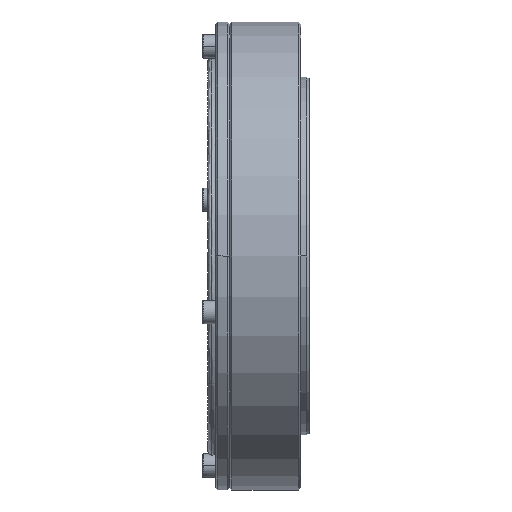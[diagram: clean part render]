
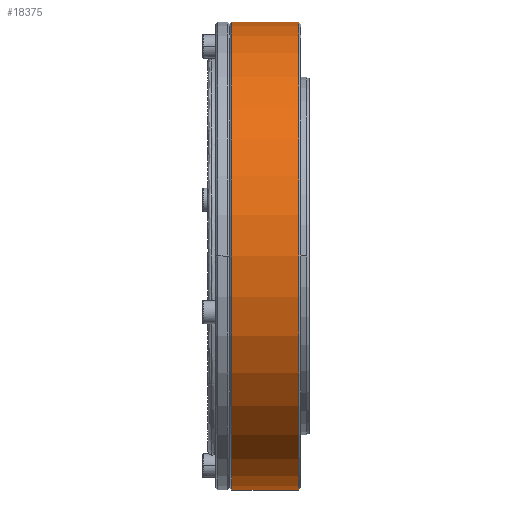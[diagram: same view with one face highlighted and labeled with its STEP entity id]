
A CAD part, front view. The second image highlights one B-rep face of the part: STEP entity #18375.
In plain terms, the highlighted cylindrical face has radius 55 mm (diameter 110 mm), a partial arc.
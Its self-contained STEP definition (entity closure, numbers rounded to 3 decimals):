
#194 = EDGE_CURVE ( 'NONE', #670, #18449, #13107, .T. ) ;
#226 = DIRECTION ( 'NONE',  ( -1., 0., 0. ) ) ;
#276 = LINE ( 'NONE', #15517, #6031 ) ;
#385 = CARTESIAN_POINT ( 'NONE',  ( 16.2, 0., 55. ) ) ;
#670 = VERTEX_POINT ( 'NONE', #2377 ) ;
#889 = DIRECTION ( 'NONE',  ( -1., 0., 0. ) ) ;
#1881 = ORIENTED_EDGE ( 'NONE', *, *, #11133, .F. ) ;
#1930 = DIRECTION ( 'NONE',  ( 0., 0., 1. ) ) ;
#1941 = AXIS2_PLACEMENT_3D ( 'NONE', #12729, #9297, #1930 ) ;
#2377 = CARTESIAN_POINT ( 'NONE',  ( 0.5, 0., 55. ) ) ;
#2899 = VECTOR ( 'NONE', #4291, 1000. ) ;
#4291 = DIRECTION ( 'NONE',  ( -1., 0., 0. ) ) ;
#5176 = ORIENTED_EDGE ( 'NONE', *, *, #194, .T. ) ;
#5595 = CARTESIAN_POINT ( 'NONE',  ( 16.2, 0., -55. ) ) ;
#6031 = VECTOR ( 'NONE', #889, 1000. ) ;
#6224 = DIRECTION ( 'NONE',  ( 1., 0., 0. ) ) ;
#7388 = VERTEX_POINT ( 'NONE', #385 ) ;
#7635 = FACE_OUTER_BOUND ( 'NONE', #18989, .T. ) ;
#7727 = ORIENTED_EDGE ( 'NONE', *, *, #21606, .T. ) ;
#9297 = DIRECTION ( 'NONE',  ( -1., 0., 0. ) ) ;
#9458 = CARTESIAN_POINT ( 'NONE',  ( 0.5, 0., -55. ) ) ;
#11133 = EDGE_CURVE ( 'NONE', #20012, #18449, #276, .T. ) ;
#12729 = CARTESIAN_POINT ( 'NONE',  ( 16.2, 0., 0. ) ) ;
#13107 = CIRCLE ( 'NONE', #13829, 55. ) ;
#13297 = ORIENTED_EDGE ( 'NONE', *, *, #20657, .T. ) ;
#13829 = AXIS2_PLACEMENT_3D ( 'NONE', #20973, #6224, #19194 ) ;
#15517 = CARTESIAN_POINT ( 'NONE',  ( 0., 0., -55. ) ) ;
#18092 = LINE ( 'NONE', #22882, #2899 ) ;
#18375 = ADVANCED_FACE ( 'NONE', ( #7635 ), #20503, .T. ) ;
#18449 = VERTEX_POINT ( 'NONE', #9458 ) ;
#18981 = AXIS2_PLACEMENT_3D ( 'NONE', #22821, #226, #22654 ) ;
#18989 = EDGE_LOOP ( 'NONE', ( #1881, #13297, #7727, #5176 ) ) ;
#19194 = DIRECTION ( 'NONE',  ( 0., 0., 1. ) ) ;
#20012 = VERTEX_POINT ( 'NONE', #5595 ) ;
#20503 = CYLINDRICAL_SURFACE ( 'NONE', #18981, 55. ) ;
#20657 = EDGE_CURVE ( 'NONE', #20012, #7388, #20727, .T. ) ;
#20727 = CIRCLE ( 'NONE', #1941, 55. ) ;
#20973 = CARTESIAN_POINT ( 'NONE',  ( 0.5, 0., 0. ) ) ;
#21606 = EDGE_CURVE ( 'NONE', #7388, #670, #18092, .T. ) ;
#22654 = DIRECTION ( 'NONE',  ( 0., 0., 1. ) ) ;
#22821 = CARTESIAN_POINT ( 'NONE',  ( 0., 0., 0. ) ) ;
#22882 = CARTESIAN_POINT ( 'NONE',  ( 0., 0., 55. ) ) ;
